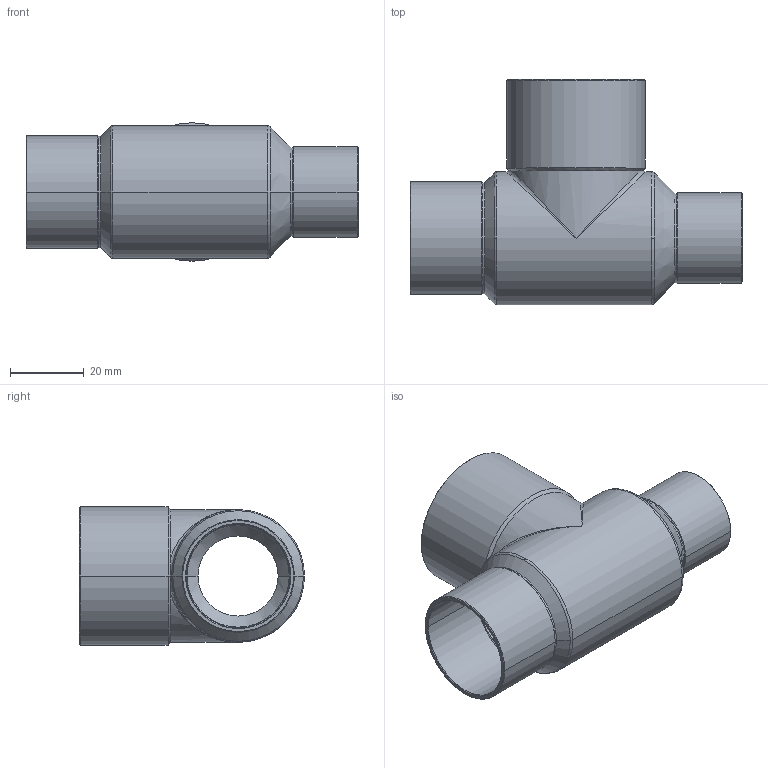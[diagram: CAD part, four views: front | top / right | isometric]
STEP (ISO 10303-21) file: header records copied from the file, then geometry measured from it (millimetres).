
FILE_DESCRIPTION((''),'2;1');
FILE_NAME('G:\Technics\CAD\Bauteile\15130\15130283522.stp','2005-11-03T13:42:48',('boden'),(''),'Autodesk Inventor 8','Autodesk Inventor 8','');
FILE_SCHEMA(('AUTOMOTIVE_DESIGN { 1 0 10303 214 1 1 1 1 }'));
Length unit declared in the file: millimetre
Products named in the file (1): 15130283522
Bounding box: 90 x 61 x 37.55 mm (x, y, z)
Volume: 13714.1 mm3; surface area: 23166.7 mm2
Topology: 1 solids, 1 shells, 72 faces, 172 edges, 95 vertices
Faces by surface type: cone 32, cylinder 28, bspline 5, torus 4, plane 3
Entity records: 2497 total; most frequent: CARTESIAN_POINT 801, DIRECTION 392, ORIENTED_EDGE 332, AXIS2_PLACEMENT_3D 166, EDGE_CURVE 166, VERTEX_POINT 95, CIRCLE 88, EDGE_LOOP 75
